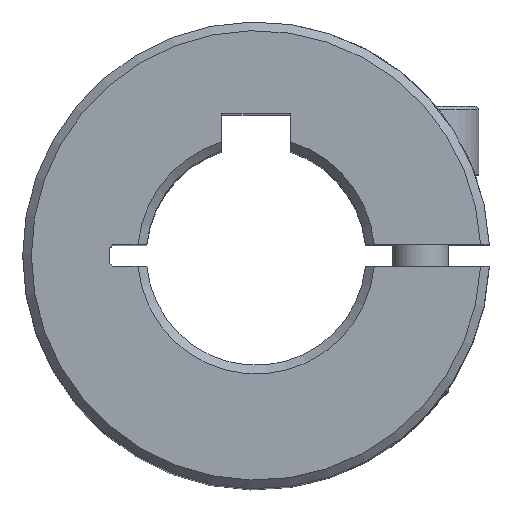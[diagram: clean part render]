
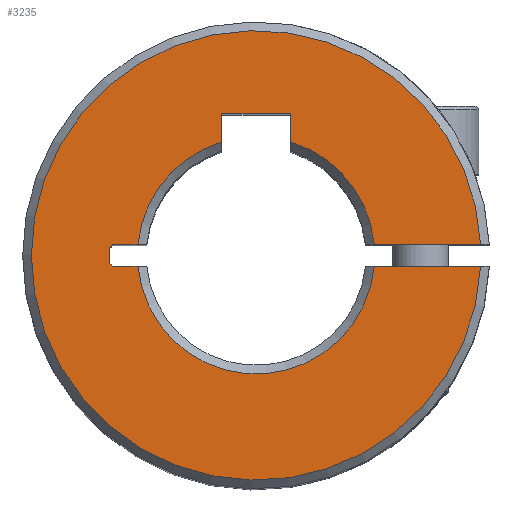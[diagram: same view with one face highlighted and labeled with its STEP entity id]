
A CAD part, top view. The second image highlights one B-rep face of the part: STEP entity #3235.
In plain terms, the highlighted planar face has unit normal (0, 0, 1).
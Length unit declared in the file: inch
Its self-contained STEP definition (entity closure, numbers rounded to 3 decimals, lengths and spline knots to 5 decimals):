
#537=DIRECTION('',(1.,0.,0.));
#538=VECTOR('',#537,0.07273);
#539=CARTESIAN_POINT('',(-0.41123,-0.0315,0.98425));
#540=LINE('',#539,#538);
#811=DIRECTION('',(1.,0.,0.));
#812=VECTOR('',#811,0.19685);
#813=CARTESIAN_POINT('',(-0.09843,0.40551,
0.98425));
#814=LINE('',#813,#812);
#830=CARTESIAN_POINT('',(-0.09843,0.3254,
0.98425));
#837=DIRECTION('',(0.,-1.,0.));
#838=VECTOR('',#837,0.08011);
#839=CARTESIAN_POINT('',(-0.09843,0.40551,
0.98425));
#840=LINE('',#839,#838);
#854=DIRECTION('',(-1.,0.,0.));
#855=VECTOR('',#854,0.07273);
#856=CARTESIAN_POINT('',(-0.3385,0.0315,0.98425));
#857=LINE('',#856,#855);
#873=DIRECTION('',(-1.,0.,0.));
#874=VECTOR('',#873,0.30502);
#875=CARTESIAN_POINT('',(0.64352,-0.0315,0.98425));
#876=LINE('',#875,#874);
#877=CARTESIAN_POINT('',(0.,0.,0.98425));
#878=DIRECTION('',(0.,0.,1.));
#879=DIRECTION('',(0.999,0.049,0.));
#880=AXIS2_PLACEMENT_3D('',#877,#878,#879);
#882=DIRECTION('',(1.,0.,0.));
#883=VECTOR('',#882,0.30502);
#884=CARTESIAN_POINT('',(0.3385,0.0315,0.98425));
#885=LINE('',#884,#883);
#886=CARTESIAN_POINT('',(0.,0.,0.98425));
#887=DIRECTION('',(0.,0.,-1.));
#888=DIRECTION('',(0.29,0.957,0.));
#889=AXIS2_PLACEMENT_3D('',#886,#887,#888);
#891=DIRECTION('',(0.,-1.,0.));
#892=VECTOR('',#891,0.08011);
#893=CARTESIAN_POINT('',(0.09843,0.40551,
0.98425));
#894=LINE('',#893,#892);
#895=DIRECTION('',(0.707,0.707,0.));
#896=VECTOR('',#895,0.0114);
#897=CARTESIAN_POINT('',(-0.41929,0.02344,0.98425));
#898=LINE('',#897,#896);
#899=DIRECTION('',(0.,1.,0.));
#900=VECTOR('',#899,0.04688);
#901=CARTESIAN_POINT('',(-0.41929,-0.02344,0.98425));
#902=LINE('',#901,#900);
#907=DIRECTION('',(-0.707,0.707,0.));
#908=VECTOR('',#907,0.0114);
#909=CARTESIAN_POINT('',(-0.41123,-0.0315,0.98425));
#910=LINE('',#909,#908);
#919=CARTESIAN_POINT('',(0.,0.,0.98425));
#920=DIRECTION('',(0.,0.,-1.));
#921=DIRECTION('',(0.996,-0.093,0.));
#922=AXIS2_PLACEMENT_3D('',#919,#920,#921);
#962=CARTESIAN_POINT('',(0.,0.,0.98425));
#963=DIRECTION('',(0.,0.,-1.));
#964=DIRECTION('',(-0.996,0.093,0.));
#965=AXIS2_PLACEMENT_3D('',#962,#963,#964);
#1726=VERTEX_POINT('',#830);
#1728=CARTESIAN_POINT('',(-0.09843,0.40551,
0.98425));
#1729=VERTEX_POINT('',#1728);
#1758=CARTESIAN_POINT('',(-0.41123,-0.0315,0.98425));
#1759=CARTESIAN_POINT('',(-0.3385,-0.0315,0.98425));
#1760=VERTEX_POINT('',#1758);
#1761=VERTEX_POINT('',#1759);
#1846=CARTESIAN_POINT('',(-0.41929,-0.02344,0.98425));
#1847=VERTEX_POINT('',#1846);
#1848=CARTESIAN_POINT('',(0.3385,-0.0315,0.98425));
#1849=VERTEX_POINT('',#1848);
#1850=CARTESIAN_POINT('',(0.64352,-0.0315,0.98425));
#1851=VERTEX_POINT('',#1850);
#1852=CARTESIAN_POINT('',(0.3385,0.0315,0.98425));
#1853=CARTESIAN_POINT('',(0.64352,0.0315,0.98425));
#1854=VERTEX_POINT('',#1852);
#1855=VERTEX_POINT('',#1853);
#1856=CARTESIAN_POINT('',(0.09843,0.3254,
0.98425));
#1857=VERTEX_POINT('',#1856);
#1858=CARTESIAN_POINT('',(0.09843,0.40551,
0.98425));
#1859=VERTEX_POINT('',#1858);
#1860=CARTESIAN_POINT('',(-0.3385,0.0315,0.98425));
#1861=VERTEX_POINT('',#1860);
#1862=CARTESIAN_POINT('',(-0.41929,0.02344,0.98425));
#1863=CARTESIAN_POINT('',(-0.41123,0.0315,0.98425));
#1864=VERTEX_POINT('',#1862);
#1865=VERTEX_POINT('',#1863);
#3208=CARTESIAN_POINT('',(0.,0.,0.98425));
#3209=DIRECTION('',(0.,0.,1.));
#3210=DIRECTION('',(1.,0.,0.));
#3211=AXIS2_PLACEMENT_3D('',#3208,#3209,#3210);
#3212=PLANE('',#3211);
#3214=ORIENTED_EDGE('',*,*,#3213,.F.);
#3215=ORIENTED_EDGE('',*,*,#2693,.T.);
#3217=ORIENTED_EDGE('',*,*,#3216,.F.);
#3218=ORIENTED_EDGE('',*,*,#2863,.F.);
#3219=ORIENTED_EDGE('',*,*,#2898,.F.);
#3220=ORIENTED_EDGE('',*,*,#2922,.F.);
#3222=ORIENTED_EDGE('',*,*,#3221,.F.);
#3223=ORIENTED_EDGE('',*,*,#3101,.F.);
#3224=ORIENTED_EDGE('',*,*,#3124,.F.);
#3225=ORIENTED_EDGE('',*,*,#3148,.T.);
#3227=ORIENTED_EDGE('',*,*,#3226,.F.);
#3228=ORIENTED_EDGE('',*,*,#3188,.T.);
#3230=ORIENTED_EDGE('',*,*,#3229,.F.);
#3232=ORIENTED_EDGE('',*,*,#3231,.F.);
#3233=EDGE_LOOP('',(#3214,#3215,#3217,#3218,#3219,#3220,#3222,#3223,#3224,#3225,
#3227,#3228,#3230,#3232));
#3234=FACE_OUTER_BOUND('',#3233,.F.);
#881=CIRCLE('',#880,0.64429);
#890=CIRCLE('',#889,0.33996);
#923=CIRCLE('',#922,0.33996);
#966=CIRCLE('',#965,0.33996);
#2693=EDGE_CURVE('',#1760,#1761,#540,.T.);
#2863=EDGE_CURVE('',#1851,#1849,#876,.T.);
#2898=EDGE_CURVE('',#1855,#1851,#881,.T.);
#2922=EDGE_CURVE('',#1854,#1855,#885,.T.);
#3101=EDGE_CURVE('',#1859,#1857,#894,.T.);
#3124=EDGE_CURVE('',#1729,#1859,#814,.T.);
#3148=EDGE_CURVE('',#1729,#1726,#840,.T.);
#3188=EDGE_CURVE('',#1861,#1865,#857,.T.);
#3213=EDGE_CURVE('',#1760,#1847,#910,.T.);
#3216=EDGE_CURVE('',#1849,#1761,#923,.T.);
#3221=EDGE_CURVE('',#1857,#1854,#890,.T.);
#3226=EDGE_CURVE('',#1861,#1726,#966,.T.);
#3229=EDGE_CURVE('',#1864,#1865,#898,.T.);
#3231=EDGE_CURVE('',#1847,#1864,#902,.T.);
#3235=ADVANCED_FACE('',(#3234),#3212,.T.);
